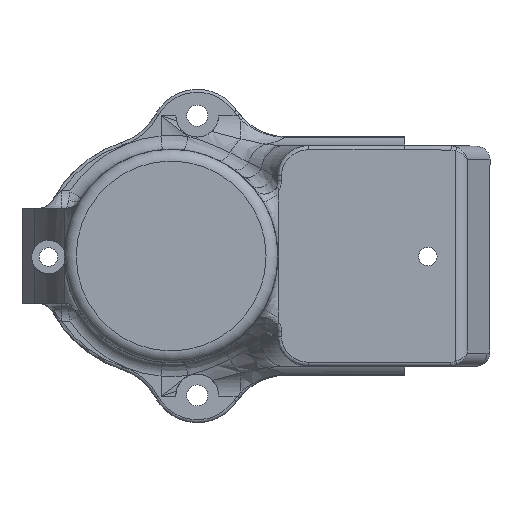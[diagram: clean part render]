
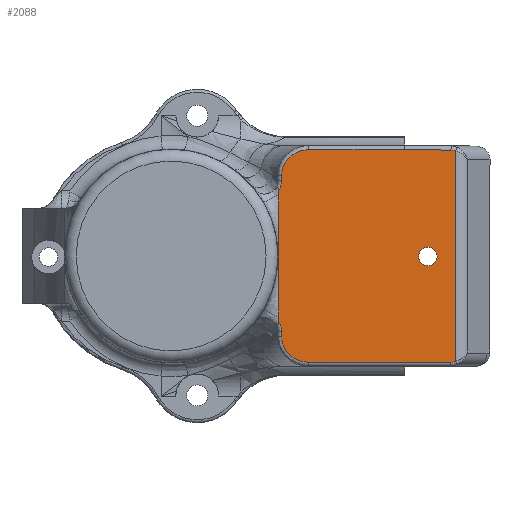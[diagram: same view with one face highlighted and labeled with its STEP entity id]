
A CAD part, left-side view. The second image highlights one B-rep face of the part: STEP entity #2088.
In plain terms, the highlighted planar face has unit normal (-1, 0, 0) as drawn and (0, 0, 1) by its records, which use the part's own axes.
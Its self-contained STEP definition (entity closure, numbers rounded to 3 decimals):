
#67=FACE_BOUND('',#583,.T.);
#80=PLANE('',#2263);
#103=B_SPLINE_CURVE_WITH_KNOTS('',3,(#3215,#3216,#3217,#3218,#3219,#3220),
 .UNSPECIFIED.,.F.,.F.,(4,1,1,4),(-0.694,-0.496,
-0.297,0.),.UNSPECIFIED.);
#104=B_SPLINE_CURVE_WITH_KNOTS('',3,(#3224,#3225,#3226,#3227),
 .UNSPECIFIED.,.F.,.F.,(4,4),(0.038,0.212),
 .UNSPECIFIED.);
#105=B_SPLINE_CURVE_WITH_KNOTS('',3,(#3239,#3240,#3241,#3242),
 .UNSPECIFIED.,.F.,.F.,(4,4),(0.005,0.179),
 .UNSPECIFIED.);
#106=B_SPLINE_CURVE_WITH_KNOTS('',3,(#3246,#3247,#3248,#3249,#3250),
 .UNSPECIFIED.,.F.,.F.,(4,1,4),(-0.694,-0.297,0.),
 .UNSPECIFIED.);
#202=LINE('',#3148,#294);
#207=LINE('',#3194,#299);
#214=LINE('',#3213,#306);
#215=LINE('',#3222,#307);
#216=LINE('',#3229,#308);
#217=LINE('',#3231,#309);
#218=LINE('',#3233,#310);
#219=LINE('',#3235,#311);
#220=LINE('',#3237,#312);
#221=LINE('',#3244,#313);
#222=LINE('',#3251,#314);
#294=VECTOR('',#2512,10.);
#299=VECTOR('',#2523,10.);
#306=VECTOR('',#2542,10.);
#307=VECTOR('',#2543,10.);
#308=VECTOR('',#2544,10.);
#309=VECTOR('',#2545,1000.);
#310=VECTOR('',#2546,1000.);
#311=VECTOR('',#2547,1000.);
#312=VECTOR('',#2548,10.);
#313=VECTOR('',#2549,10.);
#314=VECTOR('',#2550,10.);
#445=FACE_OUTER_BOUND('',#582,.T.);
#582=EDGE_LOOP('',(#1444,#1445,#1446,#1447,#1448,#1449,#1450,#1451,#1452,
#1453,#1454,#1455,#1456,#1457,#1458,#1459,#1460));
#583=EDGE_LOOP('',(#1461));
#715=ELLIPSE('',#2239,1.732,1.55);
#720=ELLIPSE('',#2247,1.732,1.55);
#737=CIRCLE('',#2264,1.55);
#857=VERTEX_POINT('',#3056);
#858=VERTEX_POINT('',#3058);
#861=VERTEX_POINT('',#3106);
#864=VERTEX_POINT('',#3111);
#872=VERTEX_POINT('',#3159);
#878=VERTEX_POINT('',#3212);
#879=VERTEX_POINT('',#3214);
#880=VERTEX_POINT('',#3221);
#881=VERTEX_POINT('',#3223);
#882=VERTEX_POINT('',#3228);
#883=VERTEX_POINT('',#3230);
#884=VERTEX_POINT('',#3232);
#885=VERTEX_POINT('',#3234);
#886=VERTEX_POINT('',#3236);
#887=VERTEX_POINT('',#3238);
#888=VERTEX_POINT('',#3243);
#889=VERTEX_POINT('',#3245);
#890=VERTEX_POINT('',#3252);
#1061=EDGE_CURVE('',#857,#858,#715,.T.);
#1069=EDGE_CURVE('',#864,#861,#720,.T.);
#1077=EDGE_CURVE('',#858,#864,#202,.T.);
#1084=EDGE_CURVE('',#872,#857,#207,.T.);
#1093=EDGE_CURVE('',#878,#872,#214,.T.);
#1094=EDGE_CURVE('',#879,#878,#103,.T.);
#1095=EDGE_CURVE('',#880,#879,#215,.T.);
#1096=EDGE_CURVE('',#881,#880,#104,.T.);
#1097=EDGE_CURVE('',#881,#882,#216,.T.);
#1098=EDGE_CURVE('',#882,#883,#217,.T.);
#1099=EDGE_CURVE('',#883,#884,#218,.T.);
#1100=EDGE_CURVE('',#884,#885,#219,.T.);
#1101=EDGE_CURVE('',#885,#886,#220,.T.);
#1102=EDGE_CURVE('',#887,#886,#105,.T.);
#1103=EDGE_CURVE('',#888,#887,#221,.T.);
#1104=EDGE_CURVE('',#889,#888,#106,.T.);
#1105=EDGE_CURVE('',#861,#889,#222,.T.);
#1106=EDGE_CURVE('',#890,#890,#737,.T.);
#1444=ORIENTED_EDGE('',*,*,#1061,.F.);
#1445=ORIENTED_EDGE('',*,*,#1084,.F.);
#1446=ORIENTED_EDGE('',*,*,#1093,.F.);
#1447=ORIENTED_EDGE('',*,*,#1094,.F.);
#1448=ORIENTED_EDGE('',*,*,#1095,.F.);
#1449=ORIENTED_EDGE('',*,*,#1096,.F.);
#1450=ORIENTED_EDGE('',*,*,#1097,.T.);
#1451=ORIENTED_EDGE('',*,*,#1098,.T.);
#1452=ORIENTED_EDGE('',*,*,#1099,.T.);
#1453=ORIENTED_EDGE('',*,*,#1100,.T.);
#1454=ORIENTED_EDGE('',*,*,#1101,.T.);
#1455=ORIENTED_EDGE('',*,*,#1102,.F.);
#1456=ORIENTED_EDGE('',*,*,#1103,.F.);
#1457=ORIENTED_EDGE('',*,*,#1104,.F.);
#1458=ORIENTED_EDGE('',*,*,#1105,.F.);
#1459=ORIENTED_EDGE('',*,*,#1069,.F.);
#1460=ORIENTED_EDGE('',*,*,#1077,.F.);
#1461=ORIENTED_EDGE('',*,*,#1106,.T.);
#2088=ADVANCED_FACE('',(#445,#67),#80,.T.);
#2239=AXIS2_PLACEMENT_3D('',#3059,#2477,#2478);
#2247=AXIS2_PLACEMENT_3D('',#3113,#2493,#2494);
#2263=AXIS2_PLACEMENT_3D('',#3211,#2540,#2541);
#2264=AXIS2_PLACEMENT_3D('',#3253,#2551,#2552);
#2477=DIRECTION('center_axis',(0.,0.,
-1.));
#2478=DIRECTION('ref_axis',(-0.006,-1.,0.));
#2493=DIRECTION('center_axis',(0.,0.,
-1.));
#2494=DIRECTION('ref_axis',(0.,-1.,0.));
#2512=DIRECTION('',(-1.,0.,0.));
#2523=DIRECTION('',(-0.006,-1.,0.));
#2540=DIRECTION('center_axis',(0.,0.,
1.));
#2541=DIRECTION('ref_axis',(0.,-1.,0.));
#2542=DIRECTION('',(0.,-1.,0.));
#2543=DIRECTION('',(1.,0.,0.));
#2544=DIRECTION('',(-1.,0.,0.));
#2545=DIRECTION('',(-1.,0.,0.));
#2546=DIRECTION('',(-1.,0.,0.));
#2547=DIRECTION('',(-1.,0.,0.));
#2548=DIRECTION('',(-1.,0.,0.));
#2549=DIRECTION('',(1.,0.,0.));
#2550=DIRECTION('',(0.,1.,0.));
#2551=DIRECTION('center_axis',(0.,0.,
-1.));
#2552=DIRECTION('ref_axis',(-1.,0.,0.));
#3056=CARTESIAN_POINT('',(-27.843,-103.367,24.1));
#3058=CARTESIAN_POINT('',(-28.007,-104.132,24.1));
#3059=CARTESIAN_POINT('Origin',(-29.393,-103.358,24.1));
#3106=CARTESIAN_POINT('',(-63.6,-103.358,24.1));
#3111=CARTESIAN_POINT('',(-63.437,-104.132,24.1));
#3113=CARTESIAN_POINT('Origin',(-62.05,-103.358,24.1));
#3148=CARTESIAN_POINT('',(-45.7,-104.132,24.1));
#3159=CARTESIAN_POINT('',(-27.8,-95.535,24.1));
#3194=CARTESIAN_POINT('',(-27.869,-108.135,24.1));
#3211=CARTESIAN_POINT('Origin',(-27.1,-74.288,24.1));
#3212=CARTESIAN_POINT('',(-27.8,-79.356,24.1));
#3213=CARTESIAN_POINT('',(-27.8,-100.1,24.1));
#3214=CARTESIAN_POINT('',(-32.1,-74.817,24.1));
#3215=CARTESIAN_POINT('Ctrl Pts',(-32.1,-74.817,24.1));
#3216=CARTESIAN_POINT('Ctrl Pts',(-31.439,-74.817,24.1));
#3217=CARTESIAN_POINT('Ctrl Pts',(-30.122,-75.153,24.1));
#3218=CARTESIAN_POINT('Ctrl Pts',(-28.335,-76.715,24.1));
#3219=CARTESIAN_POINT('Ctrl Pts',(-27.8,-78.365,24.1));
#3220=CARTESIAN_POINT('Ctrl Pts',(-27.8,-79.356,24.1));
#3221=CARTESIAN_POINT('',(-32.963,-74.817,24.1));
#3222=CARTESIAN_POINT('',(-27.1,-74.817,24.1));
#3223=CARTESIAN_POINT('',(-34.618,-74.325,24.1));
#3224=CARTESIAN_POINT('Ctrl Pts',(-34.618,-74.326,24.1));
#3225=CARTESIAN_POINT('Ctrl Pts',(-34.135,-74.653,24.1));
#3226=CARTESIAN_POINT('Ctrl Pts',(-33.543,-74.821,24.1));
#3227=CARTESIAN_POINT('Ctrl Pts',(-32.963,-74.817,24.1));
#3228=CARTESIAN_POINT('',(-35.332,-74.325,24.1));
#3229=CARTESIAN_POINT('',(-33.147,-74.325,24.1));
#3230=CARTESIAN_POINT('',(-36.629,-74.325,24.1));
#3231=CARTESIAN_POINT('',(65.7,-74.325,24.1));
#3232=CARTESIAN_POINT('',(-54.784,-74.325,24.1));
#3233=CARTESIAN_POINT('',(65.7,-74.325,24.1));
#3234=CARTESIAN_POINT('',(-56.081,-74.325,24.1));
#3235=CARTESIAN_POINT('',(65.7,-74.325,24.1));
#3236=CARTESIAN_POINT('',(-56.782,-74.325,24.1));
#3237=CARTESIAN_POINT('',(-56.081,-74.325,24.1));
#3238=CARTESIAN_POINT('',(-58.437,-74.817,24.1));
#3239=CARTESIAN_POINT('Ctrl Pts',(-58.437,-74.817,24.1));
#3240=CARTESIAN_POINT('Ctrl Pts',(-57.857,-74.821,24.1));
#3241=CARTESIAN_POINT('Ctrl Pts',(-57.265,-74.653,24.1));
#3242=CARTESIAN_POINT('Ctrl Pts',(-56.782,-74.326,24.1));
#3243=CARTESIAN_POINT('',(-59.3,-74.817,24.1));
#3244=CARTESIAN_POINT('',(-27.1,-74.817,24.1));
#3245=CARTESIAN_POINT('',(-63.6,-79.356,24.1));
#3246=CARTESIAN_POINT('Ctrl Pts',(-63.6,-79.356,24.1));
#3247=CARTESIAN_POINT('Ctrl Pts',(-63.6,-78.034,24.1));
#3248=CARTESIAN_POINT('Ctrl Pts',(-62.58,-75.723,24.1));
#3249=CARTESIAN_POINT('Ctrl Pts',(-60.291,-74.817,24.1));
#3250=CARTESIAN_POINT('Ctrl Pts',(-59.3,-74.817,24.1));
#3251=CARTESIAN_POINT('',(-63.6,-111.727,24.1));
#3252=CARTESIAN_POINT('',(-44.228,-99.475,24.1));
#3253=CARTESIAN_POINT('Origin',(-45.778,-99.475,24.1));
